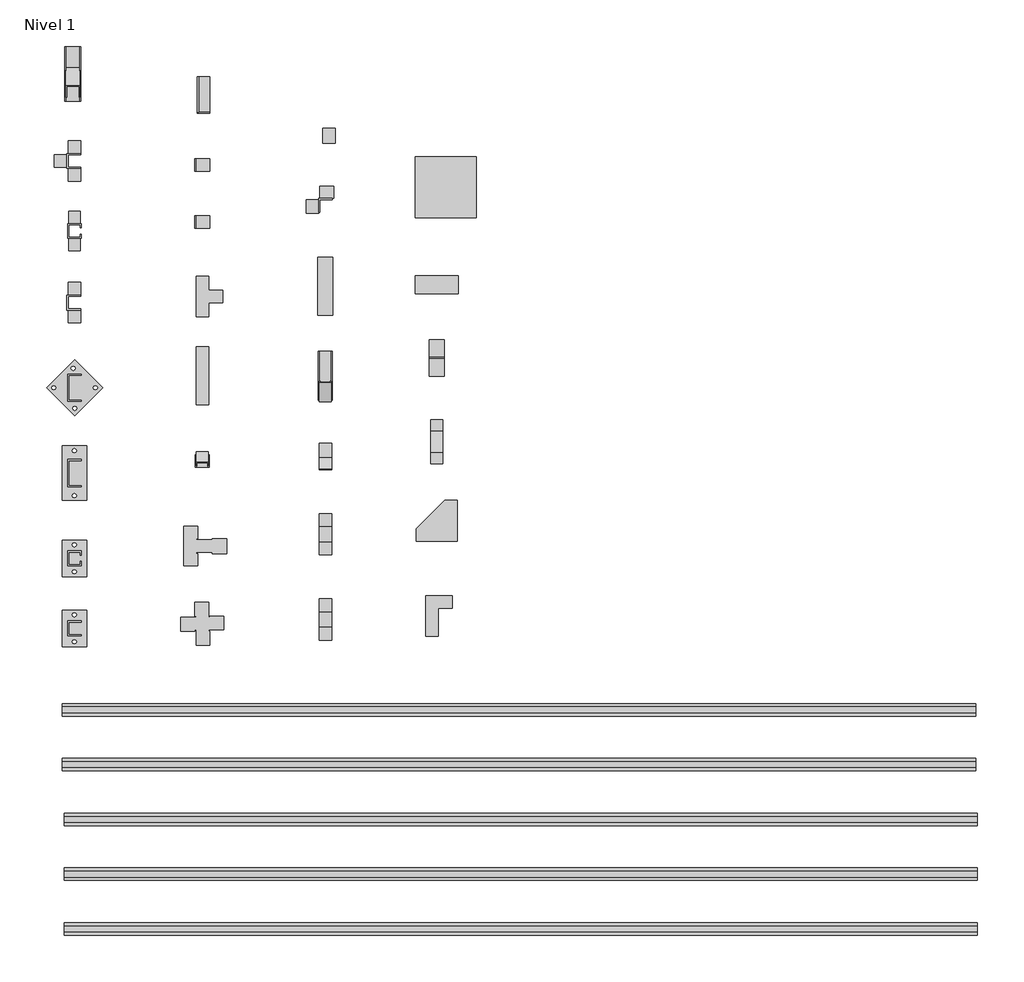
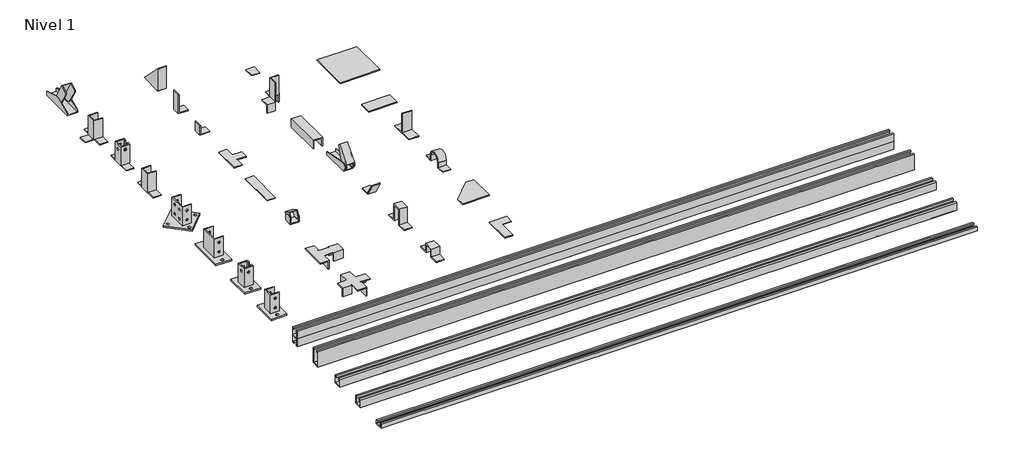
# One storey: 37 proxies.
"""IFC4 building model written with IfcOpenShell, lengths in millimetres."""

from ifc_helpers import new_model, si_unit, origin, place, context, project, spatial, transform, mapped, element, save
from components import generic_models_c8c5d6dd, generic_models_d9a72575, generic_models_f0572bc3, generic_models_1707270b, generic_models_29aa744f, generic_models_82820927, generic_models_69fa481b, generic_models_73edb59f, generic_models_36682113, generic_models_2a65ef94, generic_models_ce7bfeeb, generic_models_a507d424, generic_models_48baef25, generic_models_0c86f282, generic_models_8d0fbc69, generic_models_0723fddf, generic_models_3abf0fa4, generic_models_c0002f18, generic_models_0bfd6c34, generic_models_a90f0e0e, generic_models_02c20962, generic_models_82b5c271, generic_models_f47e3d8b, generic_models_3b9a10cf, generic_models_194c1ab4, generic_models_d2a45bf1, generic_models_7039986b, generic_models_3813aef3, generic_models_06d51203, generic_models_0819af8c, generic_models_ffe3f2f8, generic_models_71d9d834, generic_models_85df7699, generic_models_bb113665, generic_models_8970f447, generic_models_463445b3, generic_models_d394de58

model = new_model("IFC4")

# Units and contexts
model_context = context("Model", 3, world=origin())
ifc_project = project(units=[si_unit("LENGTHUNIT", "METRE", prefix="MILLI")], contexts=[model_context])

# Site, building, storey
site = spatial("IfcSite", under=ifc_project)
building = spatial("IfcBuilding", under=site)
storey = spatial("IfcBuildingStorey", under=building, Name="Nivel 1", Elevation=0.0)

# Proxies
placement = place(None, origin())
generic_models_shape = generic_models_c8c5d6dd(model_context)
element("IfcBuildingElementProxy", 1, Name="P41_Profile-Basorfix : Basorfix P41 41x41x2.5  D11 3M GC", ObjectType="P41_Profile-Basorfix : Basorfix P41 41x41x2.5  D11 3M GC", at=placement, inside=storey, context=model_context, shape_type="MappedRepresentation", body=[
    mapped(generic_models_shape, transform((721.2248304, 2529.2948141, 0.0), x_axis=(0.0, -1.0, 0.0), y_axis=(1.0, 0.0, 0.0), z_axis=(0.0, 0.0, 1.0))),
])
generic_models_2_shape = generic_models_d9a72575(model_context)
element("IfcBuildingElementProxy", 2, Name="P41_Profile-Basorfix : Basorfix P41 41x21x2.5  D11 3M GC", ObjectType="P41_Profile-Basorfix : Basorfix P41 41x21x2.5  D11 3M GC", at=placement, inside=storey, context=model_context, shape_type="MappedRepresentation", body=[
    mapped(generic_models_2_shape, transform((721.2248304, 2349.2948141, 0.0), x_axis=(0.0, -1.0, 0.0), y_axis=(1.0, 0.0, 0.0), z_axis=(0.0, 0.0, 1.0))),
])
generic_models_3_shape = generic_models_f0572bc3(model_context)
element("IfcBuildingElementProxy", 3, Name="P41_Profile-Basorfix : Basorfix P41 41x82x2.5  D14 3M GC", ObjectType="P41_Profile-Basorfix : Basorfix P41 41x82x2.5  D14 3M GC", at=placement, inside=storey, context=model_context, shape_type="MappedRepresentation", body=[
    mapped(generic_models_3_shape, transform((714.942921, 2889.185163, 0.0), x_axis=(0.0, -1.0, 0.0), y_axis=(1.0, 0.0, 0.0), z_axis=(0.0, 0.0, 1.0))),
])
generic_models_4_shape = generic_models_1707270b(model_context)
element("IfcBuildingElementProxy", 4, Name="P41-3S_Profile-Basorfix : Basorfix P41-3S 41x41x2  D13 3M GC", ObjectType="P41-3S_Profile-Basorfix : Basorfix P41-3S 41x41x2  D13 3M GC", at=placement, inside=storey, context=model_context, shape_type="MappedRepresentation", body=[
    mapped(generic_models_4_shape, transform((721.2248304, 2709.2948141, 0.0), x_axis=(0.0, -1.0, 0.0), y_axis=(1.0, 0.0, 0.0), z_axis=(0.0, 0.0, 1.0))),
])
generic_models_5_shape = generic_models_29aa744f(model_context)
element("IfcBuildingElementProxy", 5, Name="K41-3S_Tape head-Basorfix : Basorfix K41-3S EZ", ObjectType="K41-3S_Tape head-Basorfix : Basorfix K41-3S EZ", at=placement, inside=storey, context=model_context, shape_type="MappedRepresentation", body=[
    mapped(generic_models_5_shape, transform((-745.057079, 3566.979405, 0.0), x_axis=(0.0, 1.0, 0.0), y_axis=(-1.0, 0.0, 0.0), z_axis=(0.0, 0.0, 1.0))),
])
generic_models_6_shape = generic_models_82820927(model_context)
element("IfcBuildingElementProxy", 6, Name="K82ME_Tape head-Basorfix : Basorfix K82ME GC70", ObjectType="K82ME_Tape head-Basorfix : Basorfix K82ME GC70", at=placement, inside=storey, context=model_context, shape_type="MappedRepresentation", body=[
    mapped(generic_models_6_shape, transform((-745.057079, 4126.979405, 0.0), x_axis=(0.0, 1.0, 0.0), y_axis=(-1.0, 0.0, 0.0), z_axis=(0.0, 0.0, 1.0))),
])
generic_models_7_shape = generic_models_69fa481b(model_context)
element("IfcBuildingElementProxy", 7, Name="K82_Tape head-Basorfix : Basorfix K82 GC70", ObjectType="K82_Tape head-Basorfix : Basorfix K82 GC70", at=placement, inside=storey, context=model_context, shape_type="MappedRepresentation", body=[
    mapped(generic_models_7_shape, transform((-745.057079, 3846.979405, 0.0), x_axis=(0.0, 1.0, 0.0), y_axis=(-1.0, 0.0, 0.0), z_axis=(0.0, 0.0, 1.0))),
])
generic_models_8_shape = generic_models_73edb59f(model_context)
element("IfcBuildingElementProxy", 8, Name="K41_Tape head-Basorfix : Basorfix K41 GC70", ObjectType="K41_Tape head-Basorfix : Basorfix K41 GC70", at=placement, inside=storey, context=model_context, shape_type="MappedRepresentation", body=[
    mapped(generic_models_8_shape, transform((-745.057079, 3336.979405, 0.0), x_axis=(0.0, 1.0, 0.0), y_axis=(-1.0, 0.0, 0.0), z_axis=(0.0, 0.0, 1.0))),
])
generic_models_9_shape = generic_models_36682113(model_context)
element("IfcBuildingElementProxy", 9, Name="SBL41_Base holder-Basorfix : Basorfix SBL41 GC70", ObjectType="SBL41_Base holder-Basorfix : Basorfix SBL41 GC70", at=placement, inside=storey, context=model_context, shape_type="MappedRepresentation", body=[
    mapped(generic_models_9_shape, transform((-745.057079, 4406.979405, 0.0), x_axis=(0.0, 1.0, 0.0), y_axis=(-1.0, 0.0, 0.0), z_axis=(0.0, 0.0, 1.0))),
])
generic_models_10_shape = generic_models_2a65ef94(model_context)
element("IfcBuildingElementProxy", 10, Name="SB41_Base holder-Basorfix : Basorfix SB41 GC70", ObjectType="SB41_Base holder-Basorfix : Basorfix SB41 GC70", at=placement, inside=storey, context=model_context, shape_type="MappedRepresentation", body=[
    mapped(generic_models_10_shape, transform((-745.057079, 4871.979405, 0.0), x_axis=(0.0, 1.0, 0.0), y_axis=(-1.0, 0.0, 0.0), z_axis=(0.0, 0.0, 1.0))),
])
generic_models_11_shape = generic_models_ce7bfeeb(model_context)
element("IfcBuildingElementProxy", 11, Name="SBL41-3S_Base holder-Basorfix : Basorfix SBL41-3S GS", ObjectType="SBL41-3S_Base holder-Basorfix : Basorfix SBL41-3S GS", at=placement, inside=storey, context=model_context, shape_type="MappedRepresentation", body=[
    mapped(generic_models_11_shape, transform((-745.057079, 4641.979405, 0.0), x_axis=(0.0, 1.0, 0.0), y_axis=(-1.0, 0.0, 0.0), z_axis=(0.0, 0.0, 1.0))),
])
generic_models_12_shape = generic_models_a507d424(model_context)
element("IfcBuildingElementProxy", 12, Name="4182CR_Tightened cross-Basorfix : Basorfix 4182CR GC70", ObjectType="4182CR_Tightened cross-Basorfix : Basorfix 4182CR GC70", at=placement, inside=storey, context=model_context, shape_type="MappedRepresentation", body=[
    mapped(generic_models_12_shape, transform((-325.057079, 3351.979405, 0.0), x_axis=(0.0, 1.0, 0.0), y_axis=(-1.0, 0.0, 0.0), z_axis=(0.0, 0.0, 1.0))),
])
generic_models_13_shape = generic_models_48baef25(model_context)
element("IfcBuildingElementProxy", 13, Name="4182TE_Tightened joint-Basorfix : Basorfix 4182TE GC70", ObjectType="4182TE_Tightened joint-Basorfix : Basorfix 4182TE GC70", at=placement, inside=storey, context=model_context, shape_type="MappedRepresentation", body=[
    mapped(generic_models_13_shape, transform((-365.057079, 3606.979405, 0.0), x_axis=(0.0, 1.0, 0.0), y_axis=(-1.0, 0.0, 0.0), z_axis=(0.0, 0.0, 1.0))),
])
generic_models_14_shape = generic_models_0c86f282(model_context)
element("IfcBuildingElementProxy", 14, Name="4182I_Accessory-Basorfix : Basorfix 4182I GC70", ObjectType="4182I_Accessory-Basorfix : Basorfix 4182I GC70", at=placement, inside=storey, context=model_context, shape_type="MappedRepresentation", body=[
    mapped(generic_models_14_shape, transform((79.0318218, 4460.9211196, 0.0), x_axis=(0.0, 1.0, 0.0), y_axis=(-1.0, 0.0, 0.0), z_axis=(0.0, 0.0, 1.0))),
])
generic_models_15_shape = generic_models_8d0fbc69(model_context)
element("IfcBuildingElementProxy", 15, Name="4182A_Accessory-Basorfix : Basorfix 4182A GC70", ObjectType="4182A_Accessory-Basorfix : Basorfix 4182A GC70", at=placement, inside=storey, context=model_context, shape_type="MappedRepresentation", body=[
    mapped(generic_models_15_shape, transform((-325.057079, 4166.979405, 0.0), x_axis=(0.0, 1.0, 0.0), y_axis=(-1.0, 0.0, 0.0), z_axis=(0.0, 0.0, 1.0))),
])
generic_models_16_shape = generic_models_0723fddf(model_context)
element("IfcBuildingElementProxy", 16, Name="4182B_Accessory-Basorfix : Basorfix 4182B GC70", ObjectType="4182B_Accessory-Basorfix : Basorfix 4182B GC70", at=placement, inside=storey, context=model_context, shape_type="MappedRepresentation", body=[
    mapped(generic_models_16_shape, transform((-325.057079, 4426.979405, 0.0), x_axis=(0.0, 1.0, 0.0), y_axis=(-1.0, 0.0, 0.0), z_axis=(0.0, 0.0, 1.0))),
])
generic_models_17_shape = generic_models_3abf0fa4(model_context)
element("IfcBuildingElementProxy", 17, Name="4182CD_Accessory-Basorfix : Basorfix 4182CD GC70", ObjectType="4182CD_Accessory-Basorfix : Basorfix 4182CD GC70", at=placement, inside=storey, context=model_context, shape_type="MappedRepresentation", body=[
    mapped(generic_models_17_shape, transform((-350.057079, 4858.6292214, 0.0), x_axis=(1.0, 0.0, 0.0), y_axis=(0.0, 1.0, 0.0), z_axis=(0.0, 0.0, 1.0))),
])
generic_models_18_shape = generic_models_c0002f18(model_context)
element("IfcBuildingElementProxy", 18, Name="4182C_Accessory-Basorfix : Basorfix 4182C GC70", ObjectType="4182C_Accessory-Basorfix : Basorfix 4182C GC70", at=placement, inside=storey, context=model_context, shape_type="MappedRepresentation", body=[
    mapped(generic_models_18_shape, transform((-350.057079, 4671.979405, 0.0), x_axis=(1.0, 0.0, 0.0), y_axis=(0.0, 1.0, 0.0), z_axis=(0.0, 0.0, 1.0))),
])
generic_models_19_shape = generic_models_0bfd6c34(model_context)
element("IfcBuildingElementProxy", 19, Name="4182D_Accessory-Basorfix : Basorfix 4182D GC70", ObjectType="4182D_Accessory-Basorfix : Basorfix 4182D GC70", at=placement, inside=storey, context=model_context, shape_type="MappedRepresentation", body=[
    mapped(generic_models_19_shape, transform((-337.057079, 5028.6292214, 0.0), x_axis=(0.0, 1.0, 0.0), y_axis=(-1.0, 0.0, 0.0), z_axis=(0.0, 0.0, 1.0))),
])
generic_models_20_shape = generic_models_a90f0e0e(model_context)
element("IfcBuildingElementProxy", 20, Name="4182F_Accessory-Basorfix : Basorfix 4182F GC70", ObjectType="4182F_Accessory-Basorfix : Basorfix 4182F GC70", at=placement, inside=storey, context=model_context, shape_type="MappedRepresentation", body=[
    mapped(generic_models_20_shape, transform((79.0318218, 3645.9211196, 0.0), x_axis=(0.0, 1.0, 0.0), y_axis=(-1.0, 0.0, 0.0), z_axis=(0.0, 0.0, 1.0))),
])
generic_models_21_shape = generic_models_02c20962(model_context)
element("IfcBuildingElementProxy", 21, Name="4182E_Accessory-Basorfix : Basorfix 4182E GC70", ObjectType="4182E_Accessory-Basorfix : Basorfix 4182E GC70", at=placement, inside=storey, context=model_context, shape_type="MappedRepresentation", body=[
    mapped(generic_models_21_shape, transform((79.0318218, 3365.9211196, 0.0), x_axis=(0.0, 1.0, 0.0), y_axis=(-1.0, 0.0, 0.0), z_axis=(0.0, 0.0, 1.0))),
])
generic_models_22_shape = generic_models_82b5c271(model_context)
element("IfcBuildingElementProxy", 22, Name="BCP_Conduit clamp-Basorfix : Basorfix BCP 2\" GC", ObjectType="BCP_Conduit clamp-Basorfix : Basorfix BCP 2\" GC", at=placement, inside=storey, context=model_context, shape_type="MappedRepresentation", body=[
    mapped(generic_models_22_shape, transform((445.1390493, 3950.2518792, 0.0), x_axis=(0.0, 1.0, 0.0), y_axis=(-1.0, 0.0, 0.0), z_axis=(0.0, 0.0, 1.0))),
])
generic_models_23_shape = generic_models_f47e3d8b(model_context)
element("IfcBuildingElementProxy", 23, Name="4182K_Accessory-Basorfix : Basorfix 4182K GC", ObjectType="4182K_Accessory-Basorfix : Basorfix 4182K GC", at=placement, inside=storey, context=model_context, shape_type="MappedRepresentation", body=[
    mapped(generic_models_23_shape, transform((91.6551734, 4954.6464751, 0.0), x_axis=(0.0, 1.0, 0.0), y_axis=(-1.0, 0.0, 0.0), z_axis=(0.0, 0.0, 1.0))),
])
generic_models_24_shape = generic_models_3b9a10cf(model_context)
element("IfcBuildingElementProxy", 24, Name="4182CV-1_Variable set-Basorfix : Basorfix 4182CV-1 GC", ObjectType="4182CV-1_Variable set-Basorfix : Basorfix 4182CV-1 GC", at=placement, inside=storey, context=model_context, shape_type="MappedRepresentation", body=[
    mapped(generic_models_24_shape, transform((-325.057079, 3886.979405, 0.0), x_axis=(-1.0, 0.0, 0.0), y_axis=(0.0, -1.0, 0.0), z_axis=(0.0, 0.0, 1.0))),
])
generic_models_25_shape = generic_models_194c1ab4(model_context)
element("IfcBuildingElementProxy", 25, Name="4182CV-2_Variable set-Basorfix : Basorfix 4182CV-2 GC", ObjectType="4182CV-2_Variable set-Basorfix : Basorfix 4182CV-2 GC", at=placement, inside=storey, context=model_context, shape_type="MappedRepresentation", body=[
    mapped(generic_models_25_shape, transform((-305.057079, 3899.5516861, 45.6461171), x_axis=(0.0, -0.500000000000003, -0.866025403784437), y_axis=(0.0, -0.866025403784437, 0.500000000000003), z_axis=(-1.0, 0.0, 0.0))),
])
generic_models_26_shape = generic_models_d2a45bf1(model_context)
element("IfcBuildingElementProxy", 26, Name="KA41-1_Articulated gusset-Basorfix : Basorfix KA41-1 GC", ObjectType="KA41-1_Articulated gusset-Basorfix : Basorfix KA41-1 GC", at=placement, inside=storey, context=model_context, shape_type="MappedRepresentation", body=[
    mapped(generic_models_26_shape, transform((-750.2626183, 5157.9092203, 0.0), x_axis=(-1.0, 0.0, 0.0), y_axis=(0.0, -1.0, 0.0), z_axis=(0.0, 0.0, 1.0))),
])
generic_models_27_shape = generic_models_7039986b(model_context)
element("IfcBuildingElementProxy", 27, Name="KA41-2_Articulated gusset-Basorfix : Basorfix KA41-2 GC", ObjectType="KA41-2_Articulated gusset-Basorfix : Basorfix KA41-2 GC", at=placement, inside=storey, context=model_context, shape_type="MappedRepresentation", body=[
    mapped(generic_models_27_shape, transform((-726.7645068, 5171.339106, 37.7281659), x_axis=(0.0, -0.8660254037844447, -0.4999999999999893), y_axis=(0.0, -0.4999999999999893, 0.8660254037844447), z_axis=(-1.0, 0.0, 0.0))),
])
generic_models_28_shape = generic_models_3813aef3(model_context)
element("IfcBuildingElementProxy", 28, Name="4182H-1_Accessory-Basorfix : Basorfix 4182H-1 I304", ObjectType="4182H-1_Accessory-Basorfix : Basorfix 4182H-1 I304", at=placement, inside=storey, context=model_context, shape_type="MappedRepresentation", body=[
    mapped(generic_models_28_shape, transform((79.0318218, 4100.9211196, 0.0), x_axis=(1.0, 0.0, 0.0), y_axis=(0.0, 1.0, 0.0), z_axis=(0.0, 0.0, 1.0))),
])
generic_models_29_shape = generic_models_06d51203(model_context)
element("IfcBuildingElementProxy", 29, Name="4182H-2_Accessory-Basorfix : Basorfix 4182H-2 I304", ObjectType="4182H-2_Accessory-Basorfix : Basorfix 4182H-2 I304", at=placement, inside=storey, context=model_context, shape_type="MappedRepresentation", body=[
    mapped(generic_models_29_shape, transform((59.0340062, 4081.0082991, 42.6832581), x_axis=(0.0, 0.7660444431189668, -0.6427876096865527), y_axis=(0.0, 0.6427876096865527, 0.7660444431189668), z_axis=(1.0, 0.0, 0.0))),
])
generic_models_30_shape = generic_models_0819af8c(model_context)
element("IfcBuildingElementProxy", 30, Name="4182G_Accessory-Basorfix : Basorfix 4182G GC70", ObjectType="4182G_Accessory-Basorfix : Basorfix 4182G GC70", at=placement, inside=storey, context=model_context, shape_type="MappedRepresentation", body=[
    mapped(generic_models_30_shape, transform((79.0318218, 3895.9211196, 0.0), x_axis=(0.0, 1.0, 0.0), y_axis=(-1.0, 0.0, 0.0), z_axis=(0.0, 0.0, 1.0))),
])
generic_models_31_shape = generic_models_ffe3f2f8(model_context)
element("IfcBuildingElementProxy", 31, Name="4182J_Accessory-Basorfix : Basorfix 4182J GC70", ObjectType="4182J_Accessory-Basorfix : Basorfix 4182J GC70", at=placement, inside=storey, context=model_context, shape_type="MappedRepresentation", body=[
    mapped(generic_models_31_shape, transform((81.6551734, 4724.6464751, 0.0), x_axis=(0.0, -1.0, 0.0), y_axis=(1.0, 0.0, 0.0), z_axis=(0.0, 0.0, 1.0))),
])
generic_models_32_shape = generic_models_71d9d834(model_context)
element("IfcBuildingElementProxy", 32, Name="TSO_Setscrew to beam-Basorfix : Basorfix TSO GC70", ObjectType="TSO_Setscrew to beam-Basorfix : Basorfix TSO GC70", at=placement, inside=storey, context=model_context, shape_type="MappedRepresentation", body=[
    mapped(generic_models_32_shape, transform((445.1390493, 4225.2518792, 0.0), x_axis=(1.0, 0.0, 0.0), y_axis=(0.0, 1.0, 0.0), z_axis=(0.0, 0.0, 1.0))),
])
generic_models_33_shape = generic_models_85df7699(model_context)
element("IfcBuildingElementProxy", 33, Name="PSOS_Joint-Basorfix : Basorfix PSOS 60x140x6 GC70", ObjectType="PSOS_Joint-Basorfix : Basorfix PSOS 60x140x6 GC70", at=placement, inside=storey, context=model_context, shape_type="MappedRepresentation", body=[
    mapped(generic_models_33_shape, transform((445.1390493, 4465.2518792, 0.0), x_axis=(0.0, 1.0, 0.0), y_axis=(-1.0, 0.0, 0.0), z_axis=(0.0, 0.0, 1.0))),
])
generic_models_34_shape = generic_models_bb113665(model_context)
element("IfcBuildingElementProxy", 34, Name="PSOM_Joint-Basorfix : Basorfix PSOM 200x200x6 GC70", ObjectType="PSOM_Joint-Basorfix : Basorfix PSOM 200x200x6 GC70", at=placement, inside=storey, context=model_context, shape_type="MappedRepresentation", body=[
    mapped(generic_models_34_shape, transform((475.1390493, 4785.2518792, 0.0), x_axis=(0.0, 1.0, 0.0), y_axis=(-1.0, 0.0, 0.0), z_axis=(0.0, 0.0, 1.0))),
])
generic_models_35_shape = generic_models_8970f447(model_context)
element("IfcBuildingElementProxy", 35, Name="P41-D_Profile-Basorfix : Basorfix P41-D 41x82x2.5 D11 3M GC", ObjectType="P41-D_Profile-Basorfix : Basorfix P41-D 41x82x2.5 D11 3M GC", at=placement, inside=storey, context=model_context, shape_type="MappedRepresentation", body=[
    mapped(generic_models_35_shape, transform((714.942921, 3069.185163, 0.0), x_axis=(0.0, -1.0, 0.0), y_axis=(1.0, 0.0, 0.0), z_axis=(0.0, 0.0, 1.0))),
])
generic_models_36_shape = generic_models_463445b3(model_context)
element("IfcBuildingElementProxy", 36, Name="4182L_Accessory-Basorfix : Basorfix 4182L GC70", ObjectType="4182L_Accessory-Basorfix : Basorfix 4182L GC70", at=placement, inside=storey, context=model_context, shape_type="MappedRepresentation", body=[
    mapped(generic_models_36_shape, transform((429.0449598, 3377.1244202, 0.0), x_axis=(0.0, 1.0, 0.0), y_axis=(-1.0, 0.0, 0.0), z_axis=(0.0, 0.0, 1.0))),
])
generic_models_37_shape = generic_models_d394de58(model_context)
element("IfcBuildingElementProxy", 37, Name="4182M_Accessory-Basorfix : Basorfix 4182M GC70", ObjectType="4182M_Accessory-Basorfix : Basorfix 4182M GC70", at=placement, inside=storey, context=model_context, shape_type="MappedRepresentation", body=[
    mapped(generic_models_37_shape, transform((445.1390493, 3690.2518792, 0.0), x_axis=(0.0, 1.0, 0.0), y_axis=(-1.0, 0.0, 0.0), z_axis=(0.0, 0.0, 1.0))),
])

save(model, "model.ifc")
